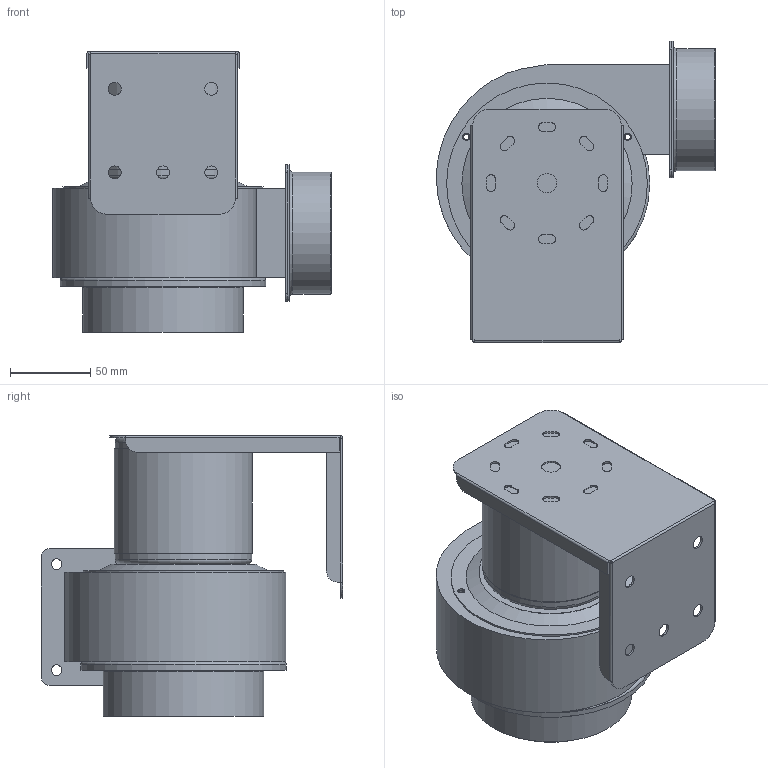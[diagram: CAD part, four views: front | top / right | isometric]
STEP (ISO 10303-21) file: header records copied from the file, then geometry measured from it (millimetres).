
FILE_DESCRIPTION(/* description */ ('Unknown'),/* implementation_level */ '2;1');
FILE_NAME(/* name */ 'CY100B2P-EG 型錄',/* time_stamp */ '2026-03-10T16:46:48+08:00',/* author */ ('Unknown'),/* organization */ ('Unknown'),/* preprocessor_version */ 'ST-DEVELOPER v20',/* originating_system */ 'Solid Edge',/* authorisation */ 'Unknown');
FILE_SCHEMA (('AUTOMOTIVE_DESIGN {1 0 10303 214 3 1 1}'));
Length unit declared in the file: millimetre
Products named in the file (8): CY100B2P-EG 型; CY100-08R; CY100-04; CY100-06; JM100B2P-EG; CY076-07-NEW; CY100-01; CY100-05
Assembly tree (7 placements, depth 2):
  CY100B2P-EG 型
    CY100-08R
    CY100-04
    CY100-06
    JM100B2P-EG
    CY076-07-NEW
    CY100-01
    CY100-05
Bounding box: 173.51 x 187.7 x 174.8 mm (x, y, z)
Volume: 1354985 mm3; surface area: 248056.4 mm2
Topology: 7 solids, 7 shells, 191 faces, 486 edges, 315 vertices
Faces by surface type: cylinder 108, plane 69, torus 11, cone 2, bspline 1
Full cylindrical faces by diameter (mm): 3.3 x3, 4.5 x9, 6.5 x8, 8 x5, 12 x1, 15 x1, 30 x1, 74.4 x1, 76 x1, 85 x2, 86 x1, 98 x1, 100 x1, 125 x2, 126 x1, 128 x1
Entity records: 5972 total; most frequent: DIRECTION 1057, CARTESIAN_POINT 993, ORIENTED_EDGE 860, AXIS2_PLACEMENT_3D 431, EDGE_CURVE 430, EDGE_LOOP 339, FACE_BOUND 339, VERTEX_POINT 311
